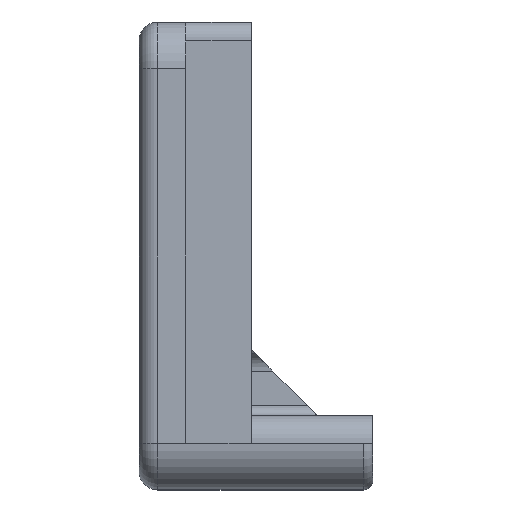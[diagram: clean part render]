
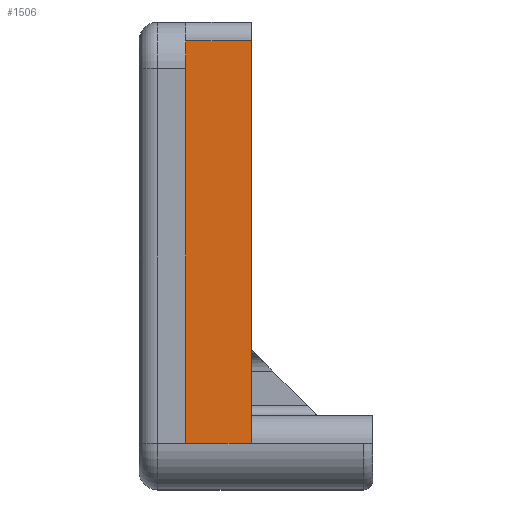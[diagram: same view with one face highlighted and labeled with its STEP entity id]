
A CAD part, left-side view. The second image highlights one B-rep face of the part: STEP entity #1506.
In plain terms, the highlighted planar face has unit normal (-1, 0, 0).
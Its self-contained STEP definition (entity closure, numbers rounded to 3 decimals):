
#87 = CARTESIAN_POINT ( 'NONE',  ( -60., 13., -25. ) ) ;
#88 = DIRECTION ( 'NONE',  ( 0., -1., 0. ) ) ;
#301 = CARTESIAN_POINT ( 'NONE',  ( -60., 13., 18. ) ) ;
#304 = CARTESIAN_POINT ( 'NONE',  ( -60., 13., -25. ) ) ;
#339 = CARTESIAN_POINT ( 'NONE',  ( -60., 20., -25. ) ) ;
#357 = CARTESIAN_POINT ( 'NONE',  ( -60., 20., 18. ) ) ;
#900 = CARTESIAN_POINT ( 'NONE',  ( -60., 13., -25. ) ) ;
#905 = PLANE ( 'NONE',  #3685 ) ;
#907 = DIRECTION ( 'NONE',  ( -1., 0., 0. ) ) ;
#908 = DIRECTION ( 'NONE',  ( 0., -1., 0. ) ) ;
#1177 = EDGE_CURVE ( 'NONE', #3813, #3810, #2718, .T. ) ;
#1194 = EDGE_CURVE ( 'NONE', #3848, #3866, #2444, .T. ) ;
#1197 = EDGE_CURVE ( 'NONE', #3810, #3866, #2432, .T. ) ;
#1332 = EDGE_CURVE ( 'NONE', #3848, #3813, #3008, .T. ) ;
#1506 = ADVANCED_FACE ( 'NONE', ( #1820 ), #905, .T. ) ;
#1820 = FACE_OUTER_BOUND ( 'NONE', #2604, .T. ) ;
#2432 = LINE ( 'NONE', #3095, #2459 ) ;
#2444 = LINE ( 'NONE', #3110, #2456 ) ;
#2456 = VECTOR ( 'NONE', #3099, 1000. ) ;
#2459 = VECTOR ( 'NONE', #3109, 1000. ) ;
#2604 = EDGE_LOOP ( 'NONE', ( #2818, #2867, #2855, #2851 ) ) ;
#2718 = LINE ( 'NONE', #3161, #2815 ) ;
#2815 = VECTOR ( 'NONE', #3162, 1000. ) ;
#2818 = ORIENTED_EDGE ( 'NONE', *, *, #1177, .T. ) ;
#2851 = ORIENTED_EDGE ( 'NONE', *, *, #1332, .T. ) ;
#2855 = ORIENTED_EDGE ( 'NONE', *, *, #1194, .F. ) ;
#2867 = ORIENTED_EDGE ( 'NONE', *, *, #1197, .T. ) ;
#3008 = LINE ( 'NONE', #87, #3014 ) ;
#3014 = VECTOR ( 'NONE', #88, 1000. ) ;
#3095 = CARTESIAN_POINT ( 'NONE',  ( -60., 20., 18. ) ) ;
#3099 = DIRECTION ( 'NONE',  ( 0., 0., 1. ) ) ;
#3109 = DIRECTION ( 'NONE',  ( 0., 1., 0. ) ) ;
#3110 = CARTESIAN_POINT ( 'NONE',  ( -60., 20., -25. ) ) ;
#3161 = CARTESIAN_POINT ( 'NONE',  ( -60., 13., -25. ) ) ;
#3162 = DIRECTION ( 'NONE',  ( 0., 0., 1. ) ) ;
#3685 = AXIS2_PLACEMENT_3D ( 'NONE', #900, #907, #908 ) ;
#3810 = VERTEX_POINT ( 'NONE', #301 ) ;
#3813 = VERTEX_POINT ( 'NONE', #304 ) ;
#3848 = VERTEX_POINT ( 'NONE', #339 ) ;
#3866 = VERTEX_POINT ( 'NONE', #357 ) ;
